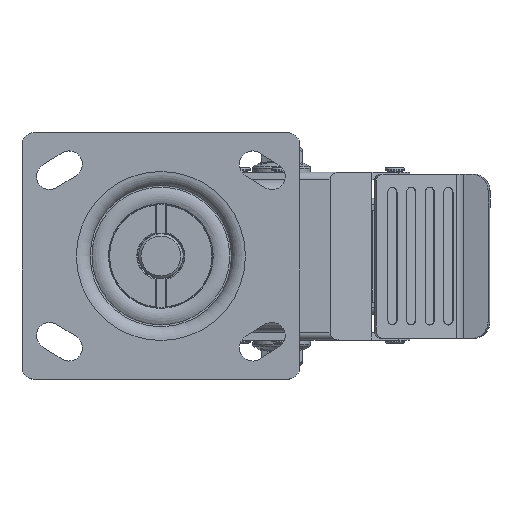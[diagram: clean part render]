
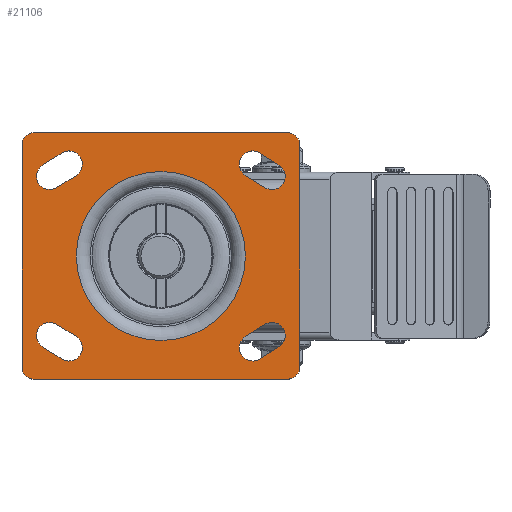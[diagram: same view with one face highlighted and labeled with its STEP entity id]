
A CAD part, top view. The second image highlights one B-rep face of the part: STEP entity #21106.
In plain terms, the highlighted planar face has unit normal (0, 0, 1).
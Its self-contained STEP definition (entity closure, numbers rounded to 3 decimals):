
#19989=CARTESIAN_POINT('',(35.0,0.,2.07));
#19990=VERTEX_POINT('',#19989);
#19991=CARTESIAN_POINT('',(0.,0.,2.07));
#19992=DIRECTION('',(0.0,0.0,-1.0));
#19993=DIRECTION('',(1.0,0.0,0.0));
#19994=AXIS2_PLACEMENT_3D('',#19991,#19992,#19993);
#19995=CIRCLE('',#19994,35.);
#19996=EDGE_CURVE('',#19990,#19990,#19995,.T.);
#20311=CARTESIAN_POINT('',(35.085,33.336,2.07));
#20312=VERTEX_POINT('',#20311);
#20319=CARTESIAN_POINT('',(43.085,28.336,2.07));
#20320=VERTEX_POINT('',#20319);
#20321=CARTESIAN_POINT('',(43.085,28.336,2.07));
#20322=DIRECTION('',(-0.848,0.53,0.0));
#20323=VECTOR('',#20322,9.434);
#20324=LINE('',#20321,#20323);
#20325=EDGE_CURVE('',#20320,#20312,#20324,.T.);
#20351=CARTESIAN_POINT('',(48.915,37.664,2.07));
#20352=VERTEX_POINT('',#20351);
#20353=CARTESIAN_POINT('',(46.0,33.,2.07));
#20354=DIRECTION('',(0.0,0.0,-1.0));
#20355=DIRECTION('',(1.0,0.0,0.0));
#20356=AXIS2_PLACEMENT_3D('',#20353,#20354,#20355);
#20357=CIRCLE('',#20356,5.5);
#20358=EDGE_CURVE('',#20352,#20320,#20357,.T.);
#20383=CARTESIAN_POINT('',(40.915,42.664,2.07));
#20384=VERTEX_POINT('',#20383);
#20385=CARTESIAN_POINT('',(40.915,42.664,2.07));
#20386=DIRECTION('',(0.848,-0.53,0.0));
#20387=VECTOR('',#20386,9.434);
#20388=LINE('',#20385,#20387);
#20389=EDGE_CURVE('',#20384,#20352,#20388,.T.);
#20413=CARTESIAN_POINT('',(38.,38.,2.07));
#20414=DIRECTION('',(0.0,0.0,-1.0));
#20415=DIRECTION('',(1.0,0.0,0.0));
#20416=AXIS2_PLACEMENT_3D('',#20413,#20414,#20415);
#20417=CIRCLE('',#20416,5.5);
#20418=EDGE_CURVE('',#20312,#20384,#20417,.T.);
#20440=CARTESIAN_POINT('',(57.5,-46.,2.07));
#20441=VERTEX_POINT('',#20440);
#20448=CARTESIAN_POINT('',(52.5,-51.,2.07));
#20449=VERTEX_POINT('',#20448);
#20450=CARTESIAN_POINT('',(52.5,-46.,2.07));
#20451=DIRECTION('',(0.0,0.0,1.0));
#20452=DIRECTION('',(1.0,0.0,0.0));
#20453=AXIS2_PLACEMENT_3D('',#20450,#20451,#20452);
#20454=CIRCLE('',#20453,5.0);
#20455=EDGE_CURVE('',#20449,#20441,#20454,.T.);
#20480=CARTESIAN_POINT('',(-52.5,-51.,2.07));
#20481=VERTEX_POINT('',#20480);
#20482=CARTESIAN_POINT('',(-52.5,-51.,2.07));
#20483=DIRECTION('',(1.0,0.0,0.0));
#20484=VECTOR('',#20483,105.0);
#20485=LINE('',#20482,#20484);
#20486=EDGE_CURVE('',#20481,#20449,#20485,.T.);
#20512=CARTESIAN_POINT('',(-57.5,-46.,2.07));
#20513=VERTEX_POINT('',#20512);
#20514=CARTESIAN_POINT('',(-52.5,-46.,2.07));
#20515=DIRECTION('',(0.0,0.0,1.0));
#20516=DIRECTION('',(1.0,0.0,0.0));
#20517=AXIS2_PLACEMENT_3D('',#20514,#20515,#20516);
#20518=CIRCLE('',#20517,5.0);
#20519=EDGE_CURVE('',#20513,#20481,#20518,.T.);
#20544=CARTESIAN_POINT('',(-57.5,46.,2.07));
#20545=VERTEX_POINT('',#20544);
#20546=CARTESIAN_POINT('',(-57.5,46.,2.07));
#20547=DIRECTION('',(0.0,-1.0,0.0));
#20548=VECTOR('',#20547,92.);
#20549=LINE('',#20546,#20548);
#20550=EDGE_CURVE('',#20545,#20513,#20549,.T.);
#20576=CARTESIAN_POINT('',(-52.5,51.,2.07));
#20577=VERTEX_POINT('',#20576);
#20578=CARTESIAN_POINT('',(-52.5,46.,2.07));
#20579=DIRECTION('',(0.0,0.0,1.0));
#20580=DIRECTION('',(1.0,0.0,0.0));
#20581=AXIS2_PLACEMENT_3D('',#20578,#20579,#20580);
#20582=CIRCLE('',#20581,5.0);
#20583=EDGE_CURVE('',#20577,#20545,#20582,.T.);
#20608=CARTESIAN_POINT('',(52.5,51.,2.07));
#20609=VERTEX_POINT('',#20608);
#20610=CARTESIAN_POINT('',(52.5,51.,2.07));
#20611=DIRECTION('',(-1.0,0.0,0.0));
#20612=VECTOR('',#20611,105.);
#20613=LINE('',#20610,#20612);
#20614=EDGE_CURVE('',#20609,#20577,#20613,.T.);
#20640=CARTESIAN_POINT('',(57.5,46.,2.07));
#20641=VERTEX_POINT('',#20640);
#20642=CARTESIAN_POINT('',(52.5,46.,2.07));
#20643=DIRECTION('',(0.0,0.0,1.0));
#20644=DIRECTION('',(1.0,0.0,0.0));
#20645=AXIS2_PLACEMENT_3D('',#20642,#20643,#20644);
#20646=CIRCLE('',#20645,5.0);
#20647=EDGE_CURVE('',#20641,#20609,#20646,.T.);
#20670=CARTESIAN_POINT('',(57.5,-46.,2.07));
#20671=DIRECTION('',(0.0,1.0,0.0));
#20672=VECTOR('',#20671,92.);
#20673=LINE('',#20670,#20672);
#20674=EDGE_CURVE('',#20441,#20641,#20673,.T.);
#20695=CARTESIAN_POINT('',(-35.085,-33.336,2.07));
#20696=VERTEX_POINT('',#20695);
#20703=CARTESIAN_POINT('',(-43.085,-28.336,2.07));
#20704=VERTEX_POINT('',#20703);
#20705=CARTESIAN_POINT('',(-43.085,-28.336,2.07));
#20706=DIRECTION('',(0.848,-0.53,0.0));
#20707=VECTOR('',#20706,9.434);
#20708=LINE('',#20705,#20707);
#20709=EDGE_CURVE('',#20704,#20696,#20708,.T.);
#20735=CARTESIAN_POINT('',(-48.915,-37.664,2.07));
#20736=VERTEX_POINT('',#20735);
#20737=CARTESIAN_POINT('',(-46.,-33.,2.07));
#20738=DIRECTION('',(0.0,0.0,-1.0));
#20739=DIRECTION('',(1.0,0.0,0.0));
#20740=AXIS2_PLACEMENT_3D('',#20737,#20738,#20739);
#20741=CIRCLE('',#20740,5.5);
#20742=EDGE_CURVE('',#20736,#20704,#20741,.T.);
#20767=CARTESIAN_POINT('',(-40.915,-42.664,2.07));
#20768=VERTEX_POINT('',#20767);
#20769=CARTESIAN_POINT('',(-40.915,-42.664,2.07));
#20770=DIRECTION('',(-0.848,0.53,0.0));
#20771=VECTOR('',#20770,9.434);
#20772=LINE('',#20769,#20771);
#20773=EDGE_CURVE('',#20768,#20736,#20772,.T.);
#20797=CARTESIAN_POINT('',(-38.0,-38.,2.07));
#20798=DIRECTION('',(0.0,0.0,-1.0));
#20799=DIRECTION('',(1.0,0.0,0.0));
#20800=AXIS2_PLACEMENT_3D('',#20797,#20798,#20799);
#20801=CIRCLE('',#20800,5.5);
#20802=EDGE_CURVE('',#20696,#20768,#20801,.T.);
#20823=CARTESIAN_POINT('',(-40.915,42.664,2.07));
#20824=VERTEX_POINT('',#20823);
#20831=CARTESIAN_POINT('',(-48.915,37.664,2.07));
#20832=VERTEX_POINT('',#20831);
#20833=CARTESIAN_POINT('',(-48.915,37.664,2.07));
#20834=DIRECTION('',(0.848,0.53,0.0));
#20835=VECTOR('',#20834,9.434);
#20836=LINE('',#20833,#20835);
#20837=EDGE_CURVE('',#20832,#20824,#20836,.T.);
#20863=CARTESIAN_POINT('',(-43.085,28.336,2.07));
#20864=VERTEX_POINT('',#20863);
#20865=CARTESIAN_POINT('',(-46.,33.,2.07));
#20866=DIRECTION('',(0.0,0.0,-1.0));
#20867=DIRECTION('',(1.0,0.0,0.0));
#20868=AXIS2_PLACEMENT_3D('',#20865,#20866,#20867);
#20869=CIRCLE('',#20868,5.5);
#20870=EDGE_CURVE('',#20864,#20832,#20869,.T.);
#20895=CARTESIAN_POINT('',(-35.085,33.336,2.07));
#20896=VERTEX_POINT('',#20895);
#20897=CARTESIAN_POINT('',(-35.085,33.336,2.07));
#20898=DIRECTION('',(-0.848,-0.53,0.0));
#20899=VECTOR('',#20898,9.434);
#20900=LINE('',#20897,#20899);
#20901=EDGE_CURVE('',#20896,#20864,#20900,.T.);
#20925=CARTESIAN_POINT('',(-38.0,38.,2.07));
#20926=DIRECTION('',(0.0,0.0,-1.0));
#20927=DIRECTION('',(1.0,0.0,0.0));
#20928=AXIS2_PLACEMENT_3D('',#20925,#20926,#20927);
#20929=CIRCLE('',#20928,5.5);
#20930=EDGE_CURVE('',#20824,#20896,#20929,.T.);
#20951=CARTESIAN_POINT('',(40.915,-42.664,2.07));
#20952=VERTEX_POINT('',#20951);
#20959=CARTESIAN_POINT('',(48.915,-37.664,2.07));
#20960=VERTEX_POINT('',#20959);
#20961=CARTESIAN_POINT('',(48.915,-37.664,2.07));
#20962=DIRECTION('',(-0.848,-0.53,0.0));
#20963=VECTOR('',#20962,9.434);
#20964=LINE('',#20961,#20963);
#20965=EDGE_CURVE('',#20960,#20952,#20964,.T.);
#20991=CARTESIAN_POINT('',(43.085,-28.336,2.07));
#20992=VERTEX_POINT('',#20991);
#20993=CARTESIAN_POINT('',(46.0,-33.,2.07));
#20994=DIRECTION('',(0.0,0.0,-1.0));
#20995=DIRECTION('',(1.0,0.0,0.0));
#20996=AXIS2_PLACEMENT_3D('',#20993,#20994,#20995);
#20997=CIRCLE('',#20996,5.5);
#20998=EDGE_CURVE('',#20992,#20960,#20997,.T.);
#21023=CARTESIAN_POINT('',(35.085,-33.336,2.07));
#21024=VERTEX_POINT('',#21023);
#21025=CARTESIAN_POINT('',(35.085,-33.336,2.07));
#21026=DIRECTION('',(0.848,0.53,0.0));
#21027=VECTOR('',#21026,9.434);
#21028=LINE('',#21025,#21027);
#21029=EDGE_CURVE('',#21024,#20992,#21028,.T.);
#21053=CARTESIAN_POINT('',(38.,-38.,2.07));
#21054=DIRECTION('',(0.0,0.0,-1.0));
#21055=DIRECTION('',(1.0,0.0,0.0));
#21056=AXIS2_PLACEMENT_3D('',#21053,#21054,#21055);
#21057=CIRCLE('',#21056,5.5);
#21058=EDGE_CURVE('',#20952,#21024,#21057,.T.);
#21064=CARTESIAN_POINT('',(67.5,0.,2.07));
#21065=DIRECTION('',(0.0,0.0,1.0));
#21066=DIRECTION('',(1.0,0.0,0.0));
#21067=AXIS2_PLACEMENT_3D('',#21064,#21065,#21066);
#21068=PLANE('',#21067);
#21069=ORIENTED_EDGE('',*,*,#20583,.T.);
#21070=ORIENTED_EDGE('',*,*,#20550,.T.);
#21071=ORIENTED_EDGE('',*,*,#20519,.T.);
#21072=ORIENTED_EDGE('',*,*,#20486,.T.);
#21073=ORIENTED_EDGE('',*,*,#20455,.T.);
#21074=ORIENTED_EDGE('',*,*,#20674,.T.);
#21075=ORIENTED_EDGE('',*,*,#20647,.T.);
#21076=ORIENTED_EDGE('',*,*,#20614,.T.);
#21077=EDGE_LOOP('',(#21069,#21070,#21071,#21072,#21073,#21074,#21075,#21076));
#21078=FACE_OUTER_BOUND('',#21077,.T.);
#21079=ORIENTED_EDGE('',*,*,#20389,.T.);
#21080=ORIENTED_EDGE('',*,*,#20358,.T.);
#21081=ORIENTED_EDGE('',*,*,#20325,.T.);
#21082=ORIENTED_EDGE('',*,*,#20418,.T.);
#21083=EDGE_LOOP('',(#21079,#21080,#21081,#21082));
#21084=FACE_BOUND('',#21083,.T.);
#21085=ORIENTED_EDGE('',*,*,#20773,.T.);
#21086=ORIENTED_EDGE('',*,*,#20742,.T.);
#21087=ORIENTED_EDGE('',*,*,#20709,.T.);
#21088=ORIENTED_EDGE('',*,*,#20802,.T.);
#21089=EDGE_LOOP('',(#21085,#21086,#21087,#21088));
#21090=FACE_BOUND('',#21089,.T.);
#21091=ORIENTED_EDGE('',*,*,#20901,.T.);
#21092=ORIENTED_EDGE('',*,*,#20870,.T.);
#21093=ORIENTED_EDGE('',*,*,#20837,.T.);
#21094=ORIENTED_EDGE('',*,*,#20930,.T.);
#21095=EDGE_LOOP('',(#21091,#21092,#21093,#21094));
#21096=FACE_BOUND('',#21095,.T.);
#21097=ORIENTED_EDGE('',*,*,#21029,.T.);
#21098=ORIENTED_EDGE('',*,*,#20998,.T.);
#21099=ORIENTED_EDGE('',*,*,#20965,.T.);
#21100=ORIENTED_EDGE('',*,*,#21058,.T.);
#21101=EDGE_LOOP('',(#21097,#21098,#21099,#21100));
#21102=FACE_BOUND('',#21101,.T.);
#21103=ORIENTED_EDGE('',*,*,#19996,.T.);
#21104=EDGE_LOOP('',(#21103));
#21105=FACE_BOUND('',#21104,.T.);
#21106=ADVANCED_FACE('',(#21078,#21084,#21090,#21096,#21102,#21105),#21068,.T.);
